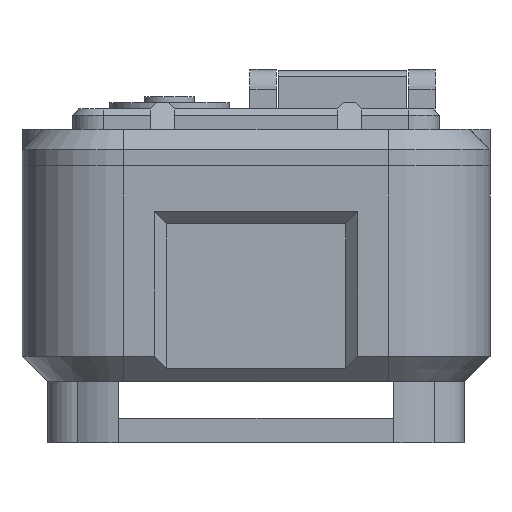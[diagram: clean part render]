
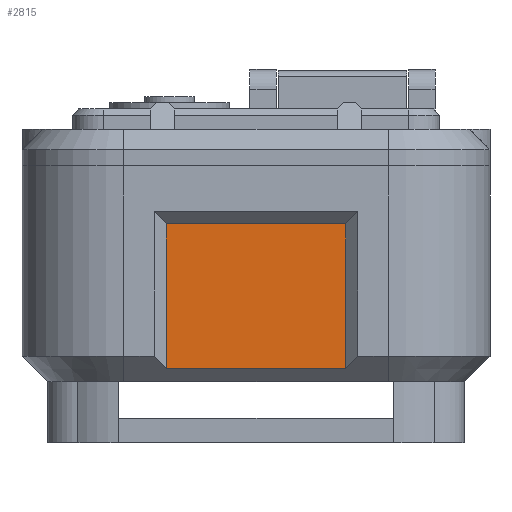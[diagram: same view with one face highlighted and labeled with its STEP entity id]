
A CAD part, front view. The second image highlights one B-rep face of the part: STEP entity #2815.
In plain terms, the highlighted planar face has unit normal (0, -1, 0).
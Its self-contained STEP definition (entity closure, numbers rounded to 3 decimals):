
#118 = PLANE('',#119);
#119 = AXIS2_PLACEMENT_3D('',#120,#121,#122);
#120 = CARTESIAN_POINT('',(36.,1.25,1.25));
#121 = DIRECTION('',(0.,-0.707,-0.707));
#122 = DIRECTION('',(-1.,-0.,0.));
#252 = PLANE('',#253);
#253 = AXIS2_PLACEMENT_3D('',#254,#255,#256);
#254 = CARTESIAN_POINT('',(31.8,1.2,-2.));
#255 = DIRECTION('',(0.707,0.707,-0.));
#256 = DIRECTION('',(0.707,-0.707,0.));
#278 = PLANE('',#279);
#279 = AXIS2_PLACEMENT_3D('',#280,#281,#282);
#280 = CARTESIAN_POINT('',(11.,1.2,15.5));
#281 = DIRECTION('',(0.,-0.707,-0.707));
#282 = DIRECTION('',(0.,-0.707,0.707));
#302 = PLANE('',#303);
#303 = AXIS2_PLACEMENT_3D('',#304,#305,#306);
#304 = CARTESIAN_POINT('',(12.,-1.,-2.));
#305 = DIRECTION('',(-0.707,0.707,0.));
#306 = DIRECTION('',(0.707,0.707,0.));
#344 = VERTEX_POINT('',#345);
#345 = CARTESIAN_POINT('',(31.8,1.2,1.3));
#364 = EDGE_CURVE('',#344,#365,#367,.T.);
#365 = VERTEX_POINT('',#366);
#366 = CARTESIAN_POINT('',(14.2,1.2,1.3));
#367 = SURFACE_CURVE('',#368,(#372,#378),.PCURVE_S1.);
#368 = LINE('',#369,#370);
#369 = CARTESIAN_POINT('',(23.5,1.2,1.3));
#370 = VECTOR('',#371,1.);
#371 = DIRECTION('',(-1.,-0.,0.));
#372 = PCURVE('',#118,#373);
#373 = DEFINITIONAL_REPRESENTATION('',(#374),#377);
#374 = B_SPLINE_CURVE_WITH_KNOTS('',1,(#375,#376),.UNSPECIFIED.,.F.,.F.,
  (2,2),(-8.3,9.3),.PIECEWISE_BEZIER_KNOTS.);
#375 = CARTESIAN_POINT('',(4.2,-0.071));
#376 = CARTESIAN_POINT('',(21.8,-0.071));
#377 = ( GEOMETRIC_REPRESENTATION_CONTEXT(2) 
PARAMETRIC_REPRESENTATION_CONTEXT() REPRESENTATION_CONTEXT('2D SPACE',''
  ) );
#378 = PCURVE('',#379,#384);
#379 = PLANE('',#380);
#380 = AXIS2_PLACEMENT_3D('',#381,#382,#383);
#381 = CARTESIAN_POINT('',(11.,1.2,-1.));
#382 = DIRECTION('',(0.,-1.,0.));
#383 = DIRECTION('',(0.,0.,1.));
#384 = DEFINITIONAL_REPRESENTATION('',(#385),#388);
#385 = B_SPLINE_CURVE_WITH_KNOTS('',1,(#386,#387),.UNSPECIFIED.,.F.,.F.,
  (2,2),(-8.3,9.3),.PIECEWISE_BEZIER_KNOTS.);
#386 = CARTESIAN_POINT('',(2.3,-20.8));
#387 = CARTESIAN_POINT('',(2.3,-3.2));
#388 = ( GEOMETRIC_REPRESENTATION_CONTEXT(2) 
PARAMETRIC_REPRESENTATION_CONTEXT() REPRESENTATION_CONTEXT('2D SPACE',''
  ) );
#465 = EDGE_CURVE('',#365,#466,#468,.T.);
#466 = VERTEX_POINT('',#467);
#467 = CARTESIAN_POINT('',(14.2,1.2,15.5));
#468 = SURFACE_CURVE('',#469,(#473,#480),.PCURVE_S1.);
#469 = LINE('',#470,#471);
#470 = CARTESIAN_POINT('',(14.2,1.2,-2.));
#471 = VECTOR('',#472,1.);
#472 = DIRECTION('',(0.,0.,1.));
#473 = PCURVE('',#302,#474);
#474 = DEFINITIONAL_REPRESENTATION('',(#475),#479);
#475 = LINE('',#476,#477);
#476 = CARTESIAN_POINT('',(3.111,0.));
#477 = VECTOR('',#478,1.);
#478 = DIRECTION('',(0.,-1.));
#479 = ( GEOMETRIC_REPRESENTATION_CONTEXT(2) 
PARAMETRIC_REPRESENTATION_CONTEXT() REPRESENTATION_CONTEXT('2D SPACE',''
  ) );
#480 = PCURVE('',#379,#481);
#481 = DEFINITIONAL_REPRESENTATION('',(#482),#486);
#482 = LINE('',#483,#484);
#483 = CARTESIAN_POINT('',(-1.,-3.2));
#484 = VECTOR('',#485,1.);
#485 = DIRECTION('',(1.,0.));
#486 = ( GEOMETRIC_REPRESENTATION_CONTEXT(2) 
PARAMETRIC_REPRESENTATION_CONTEXT() REPRESENTATION_CONTEXT('2D SPACE',''
  ) );
#514 = EDGE_CURVE('',#466,#515,#517,.T.);
#515 = VERTEX_POINT('',#516);
#516 = CARTESIAN_POINT('',(31.8,1.2,15.5));
#517 = SURFACE_CURVE('',#518,(#522,#529),.PCURVE_S1.);
#518 = LINE('',#519,#520);
#519 = CARTESIAN_POINT('',(11.,1.2,15.5));
#520 = VECTOR('',#521,1.);
#521 = DIRECTION('',(1.,0.,0.));
#522 = PCURVE('',#278,#523);
#523 = DEFINITIONAL_REPRESENTATION('',(#524),#528);
#524 = LINE('',#525,#526);
#525 = CARTESIAN_POINT('',(0.,0.));
#526 = VECTOR('',#527,1.);
#527 = DIRECTION('',(0.,-1.));
#528 = ( GEOMETRIC_REPRESENTATION_CONTEXT(2) 
PARAMETRIC_REPRESENTATION_CONTEXT() REPRESENTATION_CONTEXT('2D SPACE',''
  ) );
#529 = PCURVE('',#379,#530);
#530 = DEFINITIONAL_REPRESENTATION('',(#531),#535);
#531 = LINE('',#532,#533);
#532 = CARTESIAN_POINT('',(16.5,0.));
#533 = VECTOR('',#534,1.);
#534 = DIRECTION('',(0.,-1.));
#535 = ( GEOMETRIC_REPRESENTATION_CONTEXT(2) 
PARAMETRIC_REPRESENTATION_CONTEXT() REPRESENTATION_CONTEXT('2D SPACE',''
  ) );
#560 = EDGE_CURVE('',#344,#515,#561,.T.);
#561 = SURFACE_CURVE('',#562,(#566,#573),.PCURVE_S1.);
#562 = LINE('',#563,#564);
#563 = CARTESIAN_POINT('',(31.8,1.2,-2.));
#564 = VECTOR('',#565,1.);
#565 = DIRECTION('',(0.,0.,1.));
#566 = PCURVE('',#252,#567);
#567 = DEFINITIONAL_REPRESENTATION('',(#568),#572);
#568 = LINE('',#569,#570);
#569 = CARTESIAN_POINT('',(0.,0.));
#570 = VECTOR('',#571,1.);
#571 = DIRECTION('',(0.,-1.));
#572 = ( GEOMETRIC_REPRESENTATION_CONTEXT(2) 
PARAMETRIC_REPRESENTATION_CONTEXT() REPRESENTATION_CONTEXT('2D SPACE',''
  ) );
#573 = PCURVE('',#379,#574);
#574 = DEFINITIONAL_REPRESENTATION('',(#575),#579);
#575 = LINE('',#576,#577);
#576 = CARTESIAN_POINT('',(-1.,-20.8));
#577 = VECTOR('',#578,1.);
#578 = DIRECTION('',(1.,0.));
#579 = ( GEOMETRIC_REPRESENTATION_CONTEXT(2) 
PARAMETRIC_REPRESENTATION_CONTEXT() REPRESENTATION_CONTEXT('2D SPACE',''
  ) );
#2815 = ADVANCED_FACE('',(#2816),#379,.T.);
#2816 = FACE_BOUND('',#2817,.T.);
#2817 = EDGE_LOOP('',(#2818,#2819,#2820,#2821));
#2818 = ORIENTED_EDGE('',*,*,#465,.F.);
#2819 = ORIENTED_EDGE('',*,*,#364,.F.);
#2820 = ORIENTED_EDGE('',*,*,#560,.T.);
#2821 = ORIENTED_EDGE('',*,*,#514,.F.);
